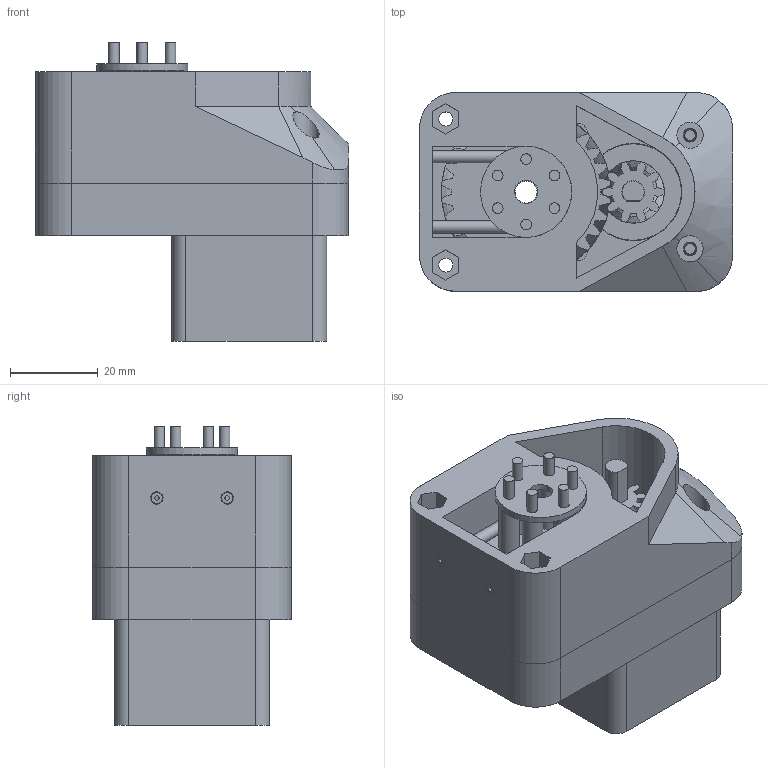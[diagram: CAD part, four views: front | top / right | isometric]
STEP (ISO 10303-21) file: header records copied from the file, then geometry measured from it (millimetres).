
FILE_DESCRIPTION(/* description */ (''),/* implementation_level */ '2;1');
FILE_NAME(/* name */ 'D:/Documents/Dr. Chen''s Project/URSA/Parametric Pump/Parametric Geared Nema 14 Pump v20.step',/* time_stamp */ '2020-06-25T15:45:03-08:00',/* author */ (''),/* organization */ (''),/* preprocessor_version */ 'ST-DEVELOPER v18.1',/* originating_system */ 'Autodesk Translation Framework v9.3.0.1241',/* authorisation */ '');
FILE_SCHEMA (('AUTOMOTIVE_DESIGN { 1 0 10303 214 3 1 1 }'));
Products named in the file (10): Parametric Geared Nema 14 Pump; Nema 14 Motor; Healical Gear (10R@35.00); Healical Gear (30L@35.00); Motor Mount; Hose; Pins; Pump Cover; 94639A714; Roller Holder
Assembly tree (9 placements, depth 2):
  Parametric Geared Nema 14 Pump
    Nema 14 Motor
    Healical Gear (10R@35.00)
    Healical Gear (30L@35.00)
    Motor Mount
    Hose
    Pins
    Pump Cover
    94639A714
    Roller Holder
Bounding box: 71.38 x 45.31 x 68.09 mm (x, y, z)
Volume: 109874.9 mm3; surface area: 44756.5 mm2
Topology: 20 solids, 20 shells, 571 faces, 1431 edges, 917 vertices
Faces by surface type: bspline 294, cylinder 153, plane 116, cone 6, torus 2
Full cylindrical faces by diameter (mm): 1 x2, 2.388 x18, 2.6 x2, 2.8 x2, 2.921 x6, 3 x24, 3.108 x6, 3.2 x4, 4.763 x6, 4.999 x2, 5 x1, 5.199 x1, 5.2 x1, 5.36 x1, 5.5 x2, 6 x4, 20.775 x1, 21.996 x1, 22.196 x1
Entity records: 48379 total; most frequent: CARTESIAN_POINT 36691, ORIENTED_EDGE 2862, DIRECTION 1697, EDGE_CURVE 1431, VERTEX_POINT 917, AXIS2_PLACEMENT_3D 681, EDGE_LOOP 654, FACE_OUTER_BOUND 571
